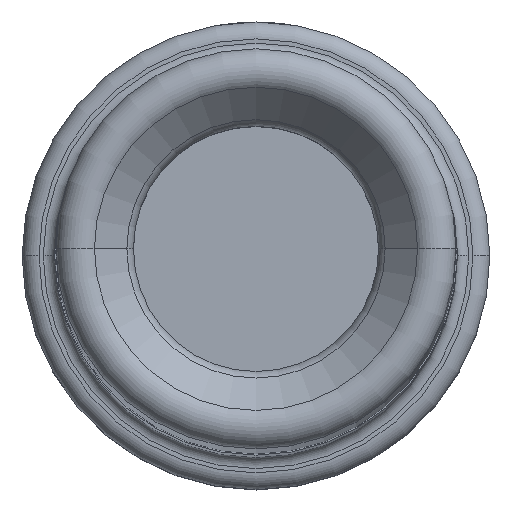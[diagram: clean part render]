
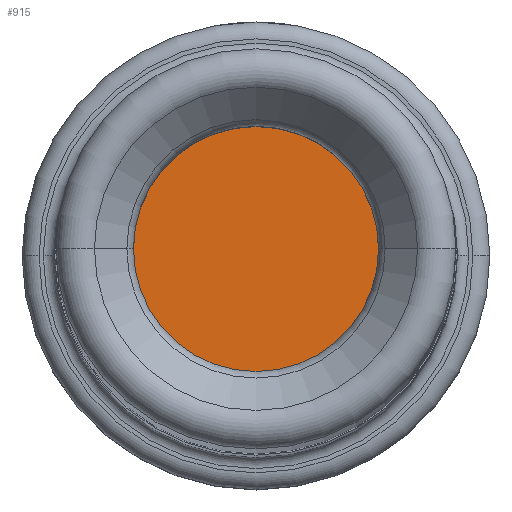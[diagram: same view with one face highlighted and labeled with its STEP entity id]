
A CAD part, top view. The second image highlights one B-rep face of the part: STEP entity #915.
In plain terms, the highlighted planar face has unit normal (0, 0, 1).
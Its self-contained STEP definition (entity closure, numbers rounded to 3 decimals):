
#166=CARTESIAN_POINT('',(0.,0.,-1.));
#167=DIRECTION('',(0.,0.,1.));
#168=DIRECTION('',(1.,0.,0.));
#169=AXIS2_PLACEMENT_3D('',#166,#167,#168);
#171=CARTESIAN_POINT('',(0.,0.,-1.));
#172=DIRECTION('',(0.,0.,-1.));
#173=DIRECTION('',(1.,0.,0.));
#174=AXIS2_PLACEMENT_3D('',#171,#172,#173);
#643=CARTESIAN_POINT('',(0.552,0.,-1.));
#644=VERTEX_POINT('',#643);
#661=CARTESIAN_POINT('',(-0.552,0.,-1.));
#662=VERTEX_POINT('',#661);
#906=CARTESIAN_POINT('',(0.,0.,-1.));
#907=DIRECTION('',(0.,0.,-1.));
#908=DIRECTION('',(-1.,0.,0.));
#909=AXIS2_PLACEMENT_3D('',#906,#907,#908);
#910=PLANE('',#909);
#911=ORIENTED_EDGE('',*,*,#899,.F.);
#912=ORIENTED_EDGE('',*,*,#888,.T.);
#913=EDGE_LOOP('',(#911,#912));
#914=FACE_OUTER_BOUND('',#913,.F.);
#915=ADVANCED_FACE('',(#914),#910,.F.);
#170=CIRCLE('',#169,0.552);
#175=CIRCLE('',#174,0.552);
#888=EDGE_CURVE('',#644,#662,#175,.T.);
#899=EDGE_CURVE('',#644,#662,#170,.T.);
